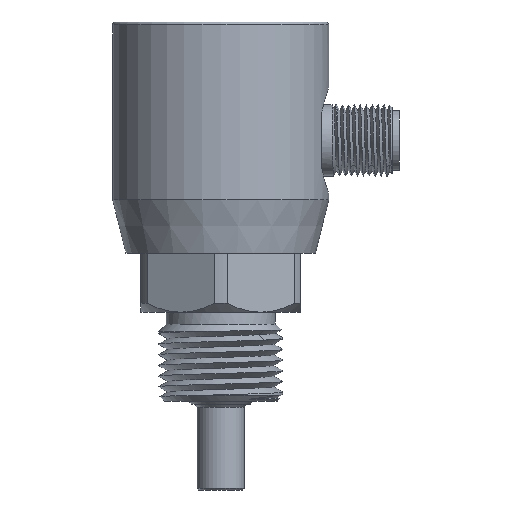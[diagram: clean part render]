
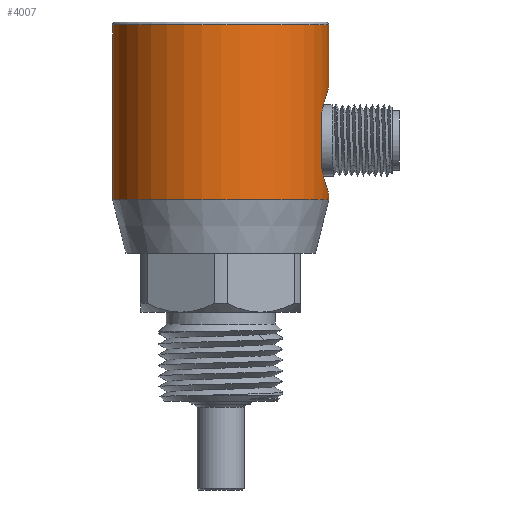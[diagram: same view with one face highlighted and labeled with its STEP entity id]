
A CAD part, left-side view. The second image highlights one B-rep face of the part: STEP entity #4007.
In plain terms, the highlighted cylindrical face has radius 18.25 mm (diameter 36.5 mm), a full revolution.
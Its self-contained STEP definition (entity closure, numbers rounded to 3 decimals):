
#730=LINE('',#19780,#2260);
#731=LINE('',#19784,#2261);
#2260=VECTOR('',#13885,1.);
#2261=VECTOR('',#13888,1.);
#3838=B_SPLINE_CURVE_WITH_KNOTS('',3,(#19746,#19747,#19748,#19749,#19750,
#19751,#19752,#19753,#19754,#19755),.UNSPECIFIED.,.F.,.F.,(4,2,2,2,4),(0.,
0.25,0.5,0.75,1.),.UNSPECIFIED.);
#3840=B_SPLINE_CURVE_WITH_KNOTS('',3,(#19786,#19787,#19788,#19789,#19790,
#19791,#19792,#19793,#19794,#19795),.UNSPECIFIED.,.F.,.F.,(4,2,2,2,4),(0.,
0.25,0.5,0.75,1.),.UNSPECIFIED.);
#3887=CYLINDRICAL_SURFACE('',#12933,18.25);
#4007=ADVANCED_FACE('',(#5286,#5287,#5288),#3887,.T.);
#5286=FACE_BOUND('',#5548,.T.);
#5287=FACE_BOUND('',#5549,.T.);
#5288=FACE_BOUND('',#5550,.T.);
#5548=EDGE_LOOP('',(#6548,#6549,#6550,#6551));
#5549=EDGE_LOOP('',(#6552));
#5550=EDGE_LOOP('',(#6553));
#6548=ORIENTED_EDGE('',*,*,#11062,.F.);
#6549=ORIENTED_EDGE('',*,*,#11059,.F.);
#6550=ORIENTED_EDGE('',*,*,#11056,.F.);
#6551=ORIENTED_EDGE('',*,*,#11061,.F.);
#6552=ORIENTED_EDGE('',*,*,#11063,.T.);
#6553=ORIENTED_EDGE('',*,*,#11064,.F.);
#9834=VERTEX_POINT('',#19744);
#9835=VERTEX_POINT('',#19745);
#9838=VERTEX_POINT('',#19781);
#9839=VERTEX_POINT('',#19783);
#9840=VERTEX_POINT('',#19797);
#9841=VERTEX_POINT('',#19799);
#11056=EDGE_CURVE('',#9835,#9834,#3838,.T.);
#11059=EDGE_CURVE('',#9834,#9838,#730,.T.);
#11061=EDGE_CURVE('',#9839,#9835,#731,.T.);
#11062=EDGE_CURVE('',#9838,#9839,#3840,.T.);
#11063=EDGE_CURVE('',#9840,#9840,#12730,.T.);
#11064=EDGE_CURVE('',#9841,#9841,#12731,.T.);
#12730=CIRCLE('',#12931,18.25);
#12731=CIRCLE('',#12932,18.25);
#12931=AXIS2_PLACEMENT_3D('',#19796,#13891,#13892);
#12932=AXIS2_PLACEMENT_3D('',#19798,#13893,#13894);
#12933=AXIS2_PLACEMENT_3D('',#19800,#13895,#13896);
#13885=DIRECTION('',(0.,0.,1.));
#13888=DIRECTION('',(0.,0.,-1.));
#13891=DIRECTION('',(0.,0.,1.));
#13892=DIRECTION('',(0.,1.,0.));
#13893=DIRECTION('',(0.,0.,1.));
#13894=DIRECTION('',(-1.,0.,0.));
#13895=DIRECTION('',(0.,0.,-1.));
#13896=DIRECTION('',(0.,-1.,0.));
#19744=CARTESIAN_POINT('',(124.765,-16.95,79.729));
#19745=CARTESIAN_POINT('',(111.235,-16.95,79.729));
#19746=CARTESIAN_POINT('',(111.235,-16.95,79.729));
#19747=CARTESIAN_POINT('',(111.849,-17.195,78.404));
#19748=CARTESIAN_POINT('',(112.75,-17.519,77.243));
#19749=CARTESIAN_POINT('',(115.065,-18.052,75.533));
#19750=CARTESIAN_POINT('',(116.496,-18.249,75.004));
#19751=CARTESIAN_POINT('',(119.471,-18.251,74.996));
#19752=CARTESIAN_POINT('',(120.9,-18.058,75.512));
#19753=CARTESIAN_POINT('',(123.25,-17.52,77.238));
#19754=CARTESIAN_POINT('',(124.15,-17.195,78.402));
#19755=CARTESIAN_POINT('',(124.765,-16.95,79.729));
#19780=CARTESIAN_POINT('',(124.765,-16.95,79.729));
#19781=CARTESIAN_POINT('',(124.765,-16.95,88.271));
#19783=CARTESIAN_POINT('',(111.235,-16.95,88.271));
#19784=CARTESIAN_POINT('',(111.235,-16.95,88.271));
#19786=CARTESIAN_POINT('',(124.765,-16.95,88.271));
#19787=CARTESIAN_POINT('',(124.151,-17.195,89.596));
#19788=CARTESIAN_POINT('',(123.25,-17.519,90.757));
#19789=CARTESIAN_POINT('',(120.935,-18.052,92.467));
#19790=CARTESIAN_POINT('',(119.504,-18.249,92.996));
#19791=CARTESIAN_POINT('',(116.529,-18.251,93.004));
#19792=CARTESIAN_POINT('',(115.1,-18.058,92.488));
#19793=CARTESIAN_POINT('',(112.75,-17.52,90.762));
#19794=CARTESIAN_POINT('',(111.85,-17.195,89.598));
#19795=CARTESIAN_POINT('',(111.235,-16.95,88.271));
#19796=CARTESIAN_POINT('',(118.,0.,74.));
#19797=CARTESIAN_POINT('',(118.,18.25,74.));
#19798=CARTESIAN_POINT('',(118.,0.,103.5));
#19799=CARTESIAN_POINT('',(99.75,0.,103.5));
#19800=CARTESIAN_POINT('',(118.,0.,103.85));
